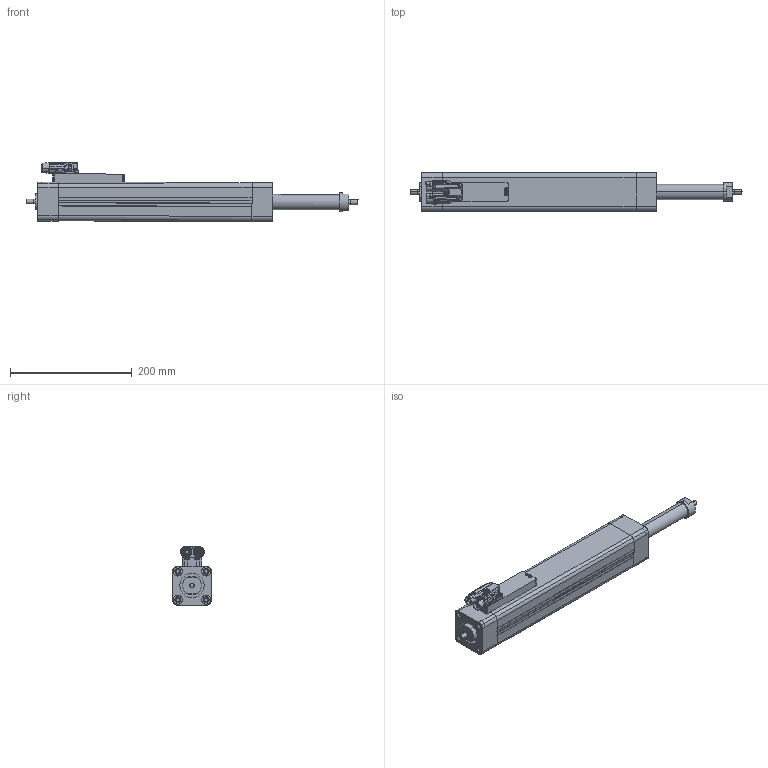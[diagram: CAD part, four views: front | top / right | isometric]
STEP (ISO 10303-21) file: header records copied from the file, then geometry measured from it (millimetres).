
FILE_DESCRIPTION(('STEP AP214'),'1');
FILE_NAME('C:/Users/Autocad/Desktop/ETT050S2CSMN0300C.stp','2014-03-24T16:09:47',(' '),(' '),'Spatial InterOp 3D',' ',' ');
FILE_SCHEMA(('automotive_design'));
Length unit declared in the file: millimetre
Products named in the file (26): ETT050S2CSMN0300C; ETH050 3.1; TAPPO NORMALE; TAPPO; Scatola; Vite M3 lunga; Connettore a y a blocchi; Pin; Vite; Pallino verde; Pallino arancione; Frutto verde; Frutto arancione; Corpo connettore; Vite M3scheda -tappo; cuscinetto; viti parker; riempitivo; Slider FINTO M-M
Assembly tree (35 placements, depth 3):
  ETT050S2CSMN0300C
    ETH050 3.1
    TAPPO NORMALE
    TAPPO
    Scatola
    Vite M3 lunga  x4
    Connettore a y a blocchi
      Pin
      Vite
      Pallino verde
      Pallino arancione
      Frutto verde
      Frutto arancione
      Corpo connettore
    Vite M3scheda -tappo  x4
    cuscinetto  x2
    viti parker
    viti parker
    viti parker
    viti parker
    viti parker
    viti parker
    viti parker
    viti parker
    riempitivo  x4
    Slider FINTO M-M
Bounding box: 545.02 x 63.5 x 97.6 mm (x, y, z)
Volume: 1277442.6 mm3; surface area: 367558.3 mm2
Topology: 27 solids, 1873 shells, 2487 faces, 10249 edges, 9673 vertices
Faces by surface type: cylinder 1027, plane 700, bspline 288, torus 262, cone 95, extrusion 68, sphere 47
Entity records: 161791 total; most frequent: CARTESIAN_POINT 60043, DIRECTION 14510, ORIENTED_EDGE 10253, EDGE_CURVE 9351, VERTEX_POINT 9053, AXIS2_PLACEMENT_3D 5555, STYLED_ITEM 3510, PRESENTATION_STYLE_ASSIGNMENT 3510
